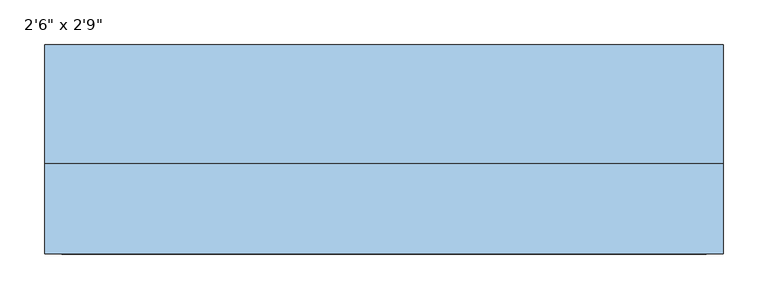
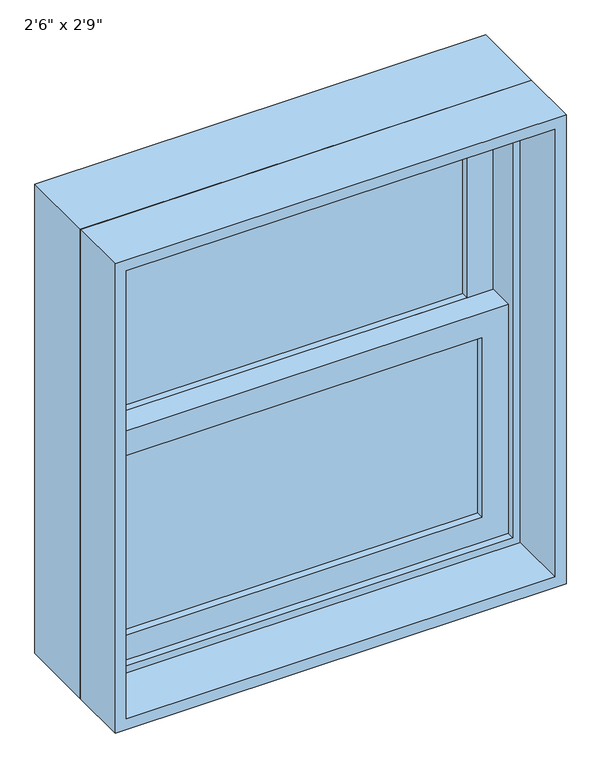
"""IFC4 building model written with IfcOpenShell, lengths in millimetres: window geometry."""

from ifc_helpers import new_model, si_unit, frame, origin, place, context, project, spatial, polyline, outline, extrude, source, transform, mapped, element, save


def window_10d21590(model_context):
    return source(origin(), model_context, "Body", "SweptSolid", [
        extrude(outline(polyline([(304.8, 38.1), (304.8, 31.75), (-304.8, 31.75), (-304.8, 38.1), (304.8, 38.1)])), frame((0.0, 0.0, 990.6), z_axis=(0.0, 0.0, 1.0), x_axis=(1.0, 0.0, 0.0)), (0.0, 0.0, 1.0), 320.675),
        extrude(outline(polyline([(-304.8, 25.4), (304.8, 25.4), (304.8, 19.05), (-304.8, 19.05), (-304.8, 25.4)])), frame((0.0, 0.0, 990.6), z_axis=(0.0, 0.0, 1.0), x_axis=(1.0, 0.0, 0.0)), (0.0, 0.0, 1.0), 320.675),
        extrude(outline(polyline([(304.8, 82.55), (304.8, 76.2), (-304.8, 76.2), (-304.8, 82.55), (304.8, 82.55)])), frame((0.0, 0.0, 1355.725), z_axis=(0.0, 0.0, 1.0), x_axis=(1.0, 0.0, 0.0)), (0.0, 0.0, 1.0), 320.675),
        extrude(outline(polyline([(-304.8, 69.85), (304.8, 69.85), (304.8, 63.5), (-304.8, 63.5), (-304.8, 69.85)])), frame((0.0, 0.0, 1355.725), z_axis=(0.0, 0.0, 1.0), x_axis=(1.0, 0.0, 0.0)), (0.0, 0.0, 1.0), 320.675),
        extrude(outline(polyline([(1355.725, -349.25), (946.15, -349.25), (946.15, 349.25), (1355.725, 349.25), (1355.725, -349.25)]), holes=[polyline([(1311.275, 304.8), (990.6, 304.8), (990.6, -304.8), (1311.275, -304.8), (1311.275, 304.8)])]), frame((0.0, 6.35, 0.0), z_axis=(0.0, 1.0, 0.0), x_axis=(0.0, 0.0, 1.0)), (0.0, 0.0, 1.0), 44.45),
        extrude(outline(polyline([(1720.85, -349.25), (1311.275, -349.25), (1311.275, 349.25), (1720.85, 349.25), (1720.85, -349.25)]), holes=[polyline([(1676.4, 304.8), (1355.725, 304.8), (1355.725, -304.8), (1676.4, -304.8), (1676.4, 304.8)])]), frame((0.0, 50.8, 0.0), z_axis=(0.0, 1.0, 0.0), x_axis=(0.0, 0.0, 1.0)), (0.0, 0.0, 1.0), 44.45),
        extrude(outline(polyline([(1752.6, -381.0), (914.4, -381.0), (914.4, 381.0), (1752.6, 381.0), (1752.6, -381.0)]), holes=[polyline([(1720.85, 349.25), (946.15, 349.25), (946.15, -349.25), (1720.85, -349.25), (1720.85, 349.25)])]), frame((0.0, -6.35, 0.0), z_axis=(0.0, 1.0, 0.0), x_axis=(0.0, 0.0, 1.0)), (0.0, 0.0, 1.0), 133.35),
        extrude(outline(polyline([(1752.6, 381.0), (1752.6, -381.0), (914.4, -381.0), (914.4, 381.0), (1752.6, 381.0)]), holes=[polyline([(1733.55, 361.95), (933.45, 361.95), (933.45, -361.95), (1733.55, -361.95), (1733.55, 361.95)])]), frame((0.0, -107.95, 0.0), z_axis=(0.0, 1.0, 0.0), x_axis=(0.0, 0.0, 1.0)), (0.0, 0.0, 1.0), 101.6),
    ])


if __name__ == "__main__":
    model = new_model("IFC4")
    model_context = context("Model", 3, world=origin())
    ifc_project = project(units=[si_unit("LENGTHUNIT", "METRE", prefix="MILLI")], contexts=[model_context])
    site = spatial("IfcSite", under=ifc_project)
    building = spatial("IfcBuilding", under=site)
    placement = place(None, origin())
    window_shape = window_10d21590(model_context)
    element("IfcWindow", 1, ObjectType="Planitar-Double-Hung-Single : 2'6\" x 2'9\"", at=placement, inside=building, context=model_context, shape_type="MappedRepresentation", body=[
        mapped(window_shape, transform((0.0, 0.0, 0.0), x_axis=(1.0, 0.0, 0.0), y_axis=(0.0, 1.0, 0.0), z_axis=(0.0, 0.0, 1.0))),
    ])
    save(model, "model.ifc")
